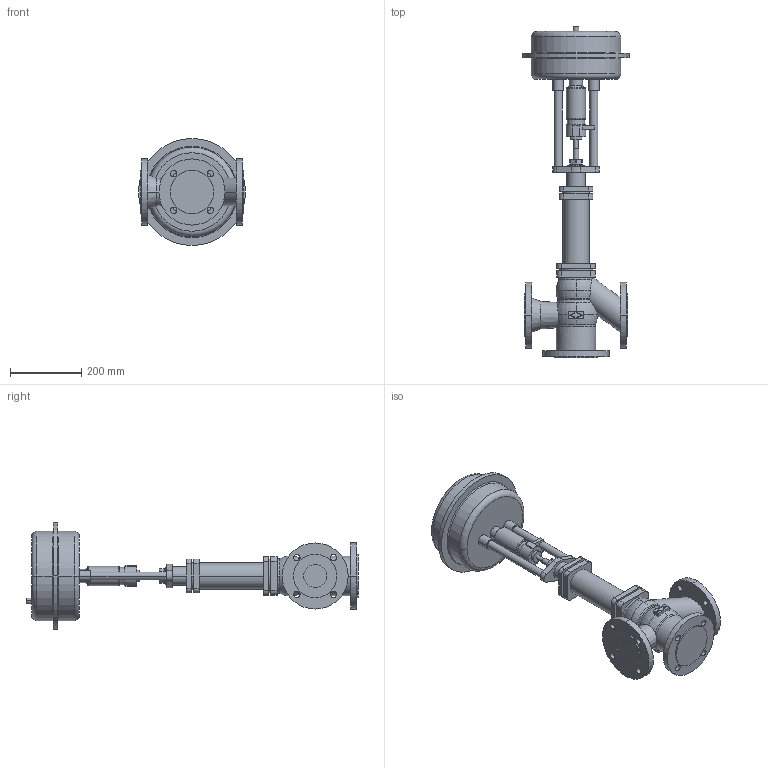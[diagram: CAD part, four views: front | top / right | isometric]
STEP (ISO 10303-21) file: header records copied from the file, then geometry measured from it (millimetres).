
FILE_DESCRIPTION(('OneSpaceDesigner STEP Export'),'2;1');
FILE_NAME('c000000710.stp','2006-09-21T 8:31:18',(''),(''),'OneSpace Designer STEP processor for AP214 (Solid Model)','OneSpace Designer 13.20A 18-Aug-2005 (C) CoCreate Software GmbH','');
FILE_SCHEMA(('AUTOMOTIVE_DESIGN { 1 0 10303 214 1 1 1 1 }'));
Length unit declared in the file: millimetre
Products named in the file (2): 1; 2
Bounding box: 300 x 930.6 x 300 mm (x, y, z)
Volume: 13265295 mm3; surface area: 725261.9 mm2
Topology: 2 solids, 2 shells, 257 faces, 636 edges, 417 vertices
Faces by surface type: cylinder 114, plane 101, torus 34, cone 8
Entity records: 6941 total; most frequent: CARTESIAN_POINT 1302, ORIENTED_EDGE 1272, DIRECTION 1040, EDGE_CURVE 636, VERTEX_POINT 417, AXIS2_PLACEMENT_3D 379, EDGE_LOOP 315, VECTOR 282
